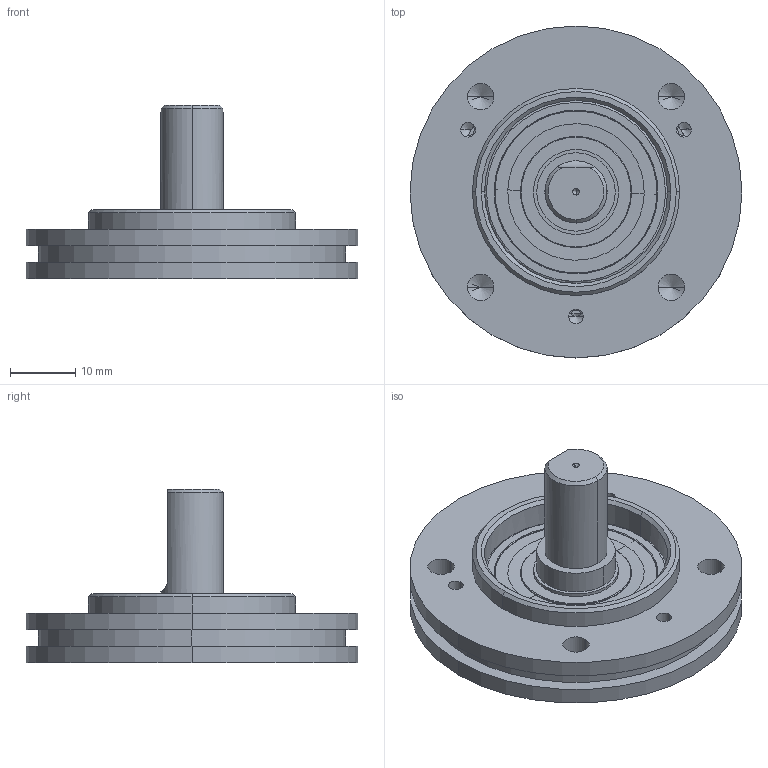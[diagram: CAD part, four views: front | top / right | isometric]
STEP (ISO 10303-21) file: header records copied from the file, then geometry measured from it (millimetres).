
FILE_DESCRIPTION (( 'STEP AP214' ), '1' );
FILE_NAME ('Drawing-MCD-D1M0-Q3A-N.STEP', '2016-02-02T15:16:06', ( '' ), ( '' ), 'SwSTEP 2.0', 'SolidWorks 2015', '' );
FILE_SCHEMA (( 'AUTOMOTIVE_DESIGN' ));
Length unit declared in the file: millimetre
Products named in the file (1): Drawing-MCD-D1M0-Q3A-N
Bounding box: 50.8 x 50.8 x 26.62 mm (x, y, z)
Volume: 14320.9 mm3; surface area: 8879.9 mm2
Topology: 2 solids, 3 shells, 110 faces, 244 edges, 141 vertices
Faces by surface type: cylinder 48, cone 28, plane 18, torus 16
Entity records: 4189 total; most frequent: DIRECTION 583, CARTESIAN_POINT 555, ORIENTED_EDGE 456, AXIS2_PLACEMENT_3D 253, EDGE_CURVE 228, CIRCLE 142, VERTEX_POINT 141, EDGE_LOOP 131
